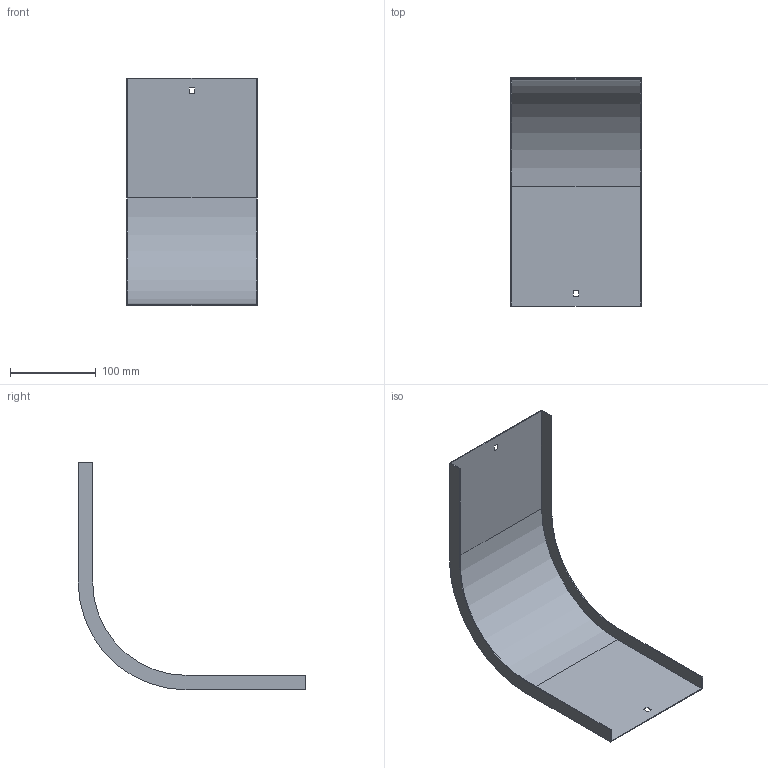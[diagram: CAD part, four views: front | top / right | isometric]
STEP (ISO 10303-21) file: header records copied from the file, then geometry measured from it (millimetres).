
FILE_DESCRIPTION (( 'STEP AP214' ), '1' );
FILE_NAME ('OD9_151.step', '2025-07-16T09:12:52', ( '' ), ( '' ), 'SwSTEP 2.0', 'SolidWorks 2023', '' );
FILE_SCHEMA (( 'AUTOMOTIVE_DESIGN' ));
Length unit declared in the file: millimetre
Products named in the file (1): OD9_151
Bounding box: 152 x 266 x 266 mm (x, y, z)
Volume: 87281.6 mm3; surface area: 175887.1 mm2
Topology: 1 solids, 1 shells, 26 faces, 72 edges, 48 vertices
Faces by surface type: plane 22, cylinder 4
Entity records: 855 total; most frequent: CARTESIAN_POINT 147, ORIENTED_EDGE 144, DIRECTION 134, EDGE_CURVE 72, LINE 64, VECTOR 64, VERTEX_POINT 48, AXIS2_PLACEMENT_3D 35
